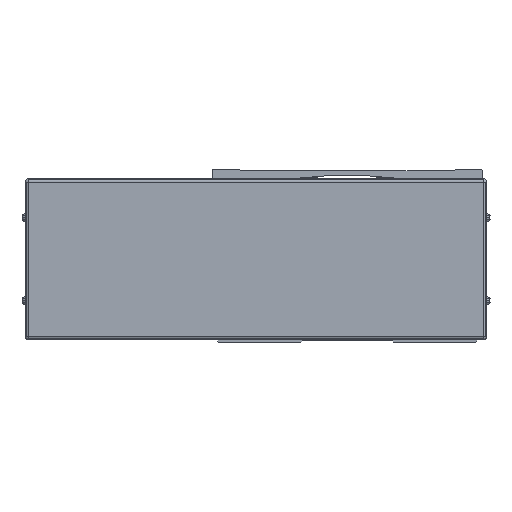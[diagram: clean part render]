
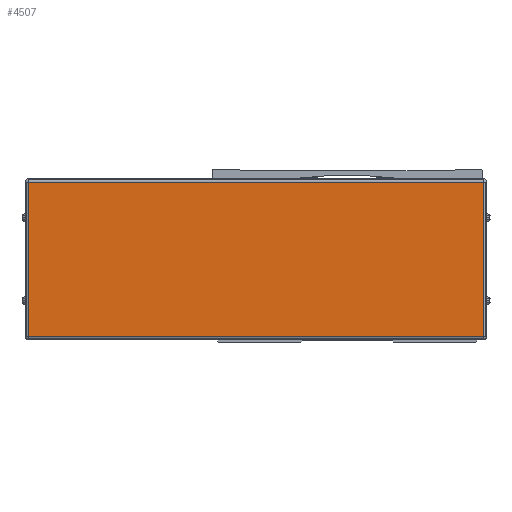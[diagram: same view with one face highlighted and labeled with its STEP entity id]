
A CAD part, front view. The second image highlights one B-rep face of the part: STEP entity #4507.
In plain terms, the highlighted planar face has unit normal (0, -1, 0).
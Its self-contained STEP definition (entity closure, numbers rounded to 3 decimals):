
#4507=ADVANCED_FACE('',(#10091),#10092,.F.);
#10091=FACE_OUTER_BOUND('',#17988,.T.);
#10092=PLANE('',#17989);
#17988=EDGE_LOOP('',(#32337,#32338,#32339,#32340));
#17989=AXIS2_PLACEMENT_3D('',#32341,#32342,#32343);
#32337=ORIENTED_EDGE('',*,*,#47921,.T.);
#32338=ORIENTED_EDGE('',*,*,#46856,.T.);
#32339=ORIENTED_EDGE('',*,*,#46170,.T.);
#32340=ORIENTED_EDGE('',*,*,#47922,.T.);
#32341=CARTESIAN_POINT('',(-655.,-372.778,-2.));
#32342=DIRECTION('',(0.,1.0,0.));
#32343=DIRECTION('',(-1.0,0.,0.));
#46170=EDGE_CURVE('',#52480,#53997,#56380,.T.);
#46856=EDGE_CURVE('',#57479,#52480,#57480,.T.);
#47921=EDGE_CURVE('',#58975,#57479,#58976,.T.);
#47922=EDGE_CURVE('',#53997,#58975,#58977,.T.);
#52480=VERTEX_POINT('',#64924);
#53997=VERTEX_POINT('',#67174);
#56380=LINE('',#71236,#71237);
#57479=VERTEX_POINT('',#72932);
#57480=LINE('',#72933,#72934);
#58975=VERTEX_POINT('',#75130);
#58976=LINE('',#75131,#75132);
#58977=LINE('',#75133,#75134);
#64924=CARTESIAN_POINT('',(-792.1,-372.778,-48.5));
#67174=CARTESIAN_POINT('',(-517.9,-372.778,-48.5));
#71236=CARTESIAN_POINT('',(-655.,-372.778,-48.5));
#71237=VECTOR('',#84142,10.0);
#72932=CARTESIAN_POINT('',(-792.1,-372.778,44.5));
#72933=CARTESIAN_POINT('',(-792.1,-372.778,-2.));
#72934=VECTOR('',#84902,10.0);
#75130=CARTESIAN_POINT('',(-517.9,-372.778,44.5));
#75131=CARTESIAN_POINT('',(-655.,-372.778,44.5));
#75132=VECTOR('',#86245,10.0);
#75133=CARTESIAN_POINT('',(-517.9,-372.778,-2.));
#75134=VECTOR('',#86246,10.0);
#84142=DIRECTION('',(1.0,0.,0.));
#84902=DIRECTION('',(0.,0.,-1.0));
#86245=DIRECTION('',(-1.0,0.,0.));
#86246=DIRECTION('',(0.,0.,1.0));
